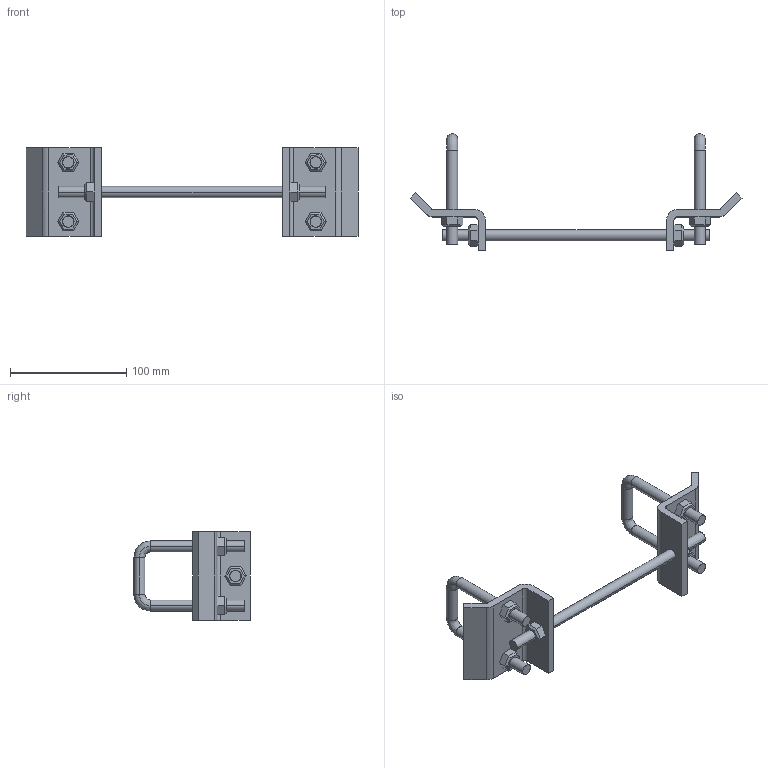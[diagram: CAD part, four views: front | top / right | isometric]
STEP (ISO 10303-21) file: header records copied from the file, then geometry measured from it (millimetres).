
FILE_DESCRIPTION(('TurboCAD Mac Pro'),'Build 980');
FILE_NAME('P2868-9.stp',' ',(''),(''),'ACIS Interop','IMSI','TurboCAD Mac Pro BY IMSI, INCORPORATED');
FILE_SCHEMA(('automotive_design'));
Length unit declared in the file: inch
Products named in the file (11): 1; 2; 3; 4; 5; 6; 7; 8; 9; 10; 11
Bounding box: 285.2 x 100.03 x 76.2 mm (x, y, z)
Volume: 143554.2 mm3; surface area: 59728.5 mm2
Topology: 11 solids, 11 shells, 176 faces, 410 edges, 256 vertices
Faces by surface type: plane 110, bspline 40, cylinder 26
Entity records: 9100 total; most frequent: CARTESIAN_POINT 1837, ORIENTED_EDGE 820, DIRECTION 692, STYLED_ITEM 541, PRESENTATION_STYLE_ASSIGNMENT 541, COLOUR_RGB 541, EDGE_CURVE 410, CURVE_STYLE 354
